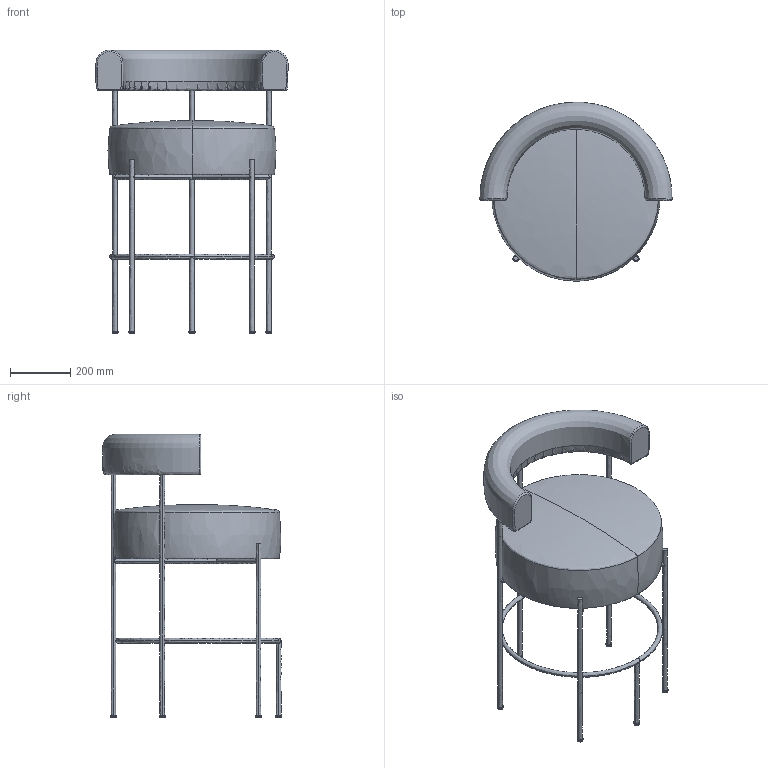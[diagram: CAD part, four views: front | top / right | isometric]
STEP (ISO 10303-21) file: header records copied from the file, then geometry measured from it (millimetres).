
FILE_DESCRIPTION(/* description */ (''),/* implementation_level */ '2;1');
FILE_NAME(/* name */ 'kinoshita_abord_s007s',/* time_stamp */ '2024-07-12T18:21:50+09:00',/* author */ (''),/* organization */ (''),/* preprocessor_version */ 'ST-DEVELOPER v16.5',/* originating_system */ '',/* authorisation */ '');
FILE_SCHEMA (('AUTOMOTIVE_DESIGN'));
Length unit declared in the file: millimetre
Products named in the file (1): Document
Bounding box: 639.97 x 597.03 x 945 mm (x, y, z)
Volume: 51686150.9 mm3; surface area: 1590283.1 mm2
Topology: 3 solids, 3 shells, 128 faces, 299 edges, 173 vertices
Faces by surface type: bspline 106, plane 22
Entity records: 8994 total; most frequent: CARTESIAN_POINT 7379, ORIENTED_EDGE 590, EDGE_CURVE 295, VERTEX_POINT 173, EDGE_LOOP 143, ADVANCED_FACE 128, FACE_OUTER_BOUND 128, B_SPLINE_CURVE_WITH_KNOTS 46
